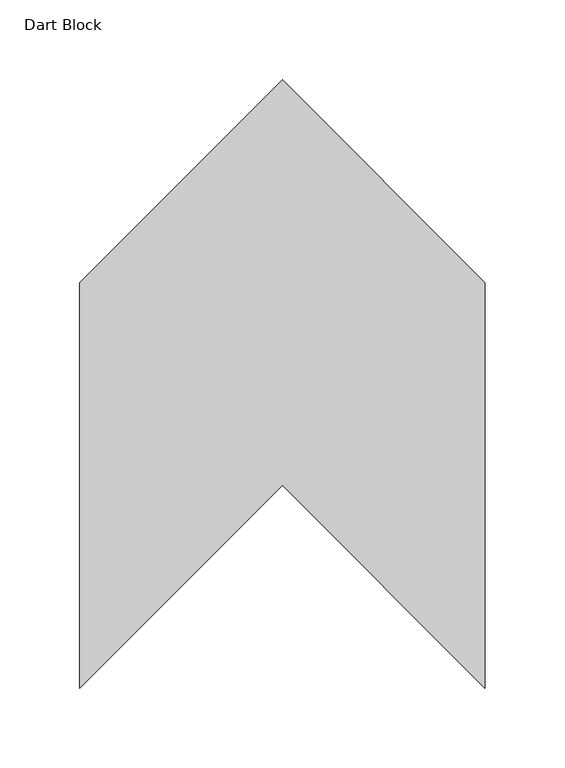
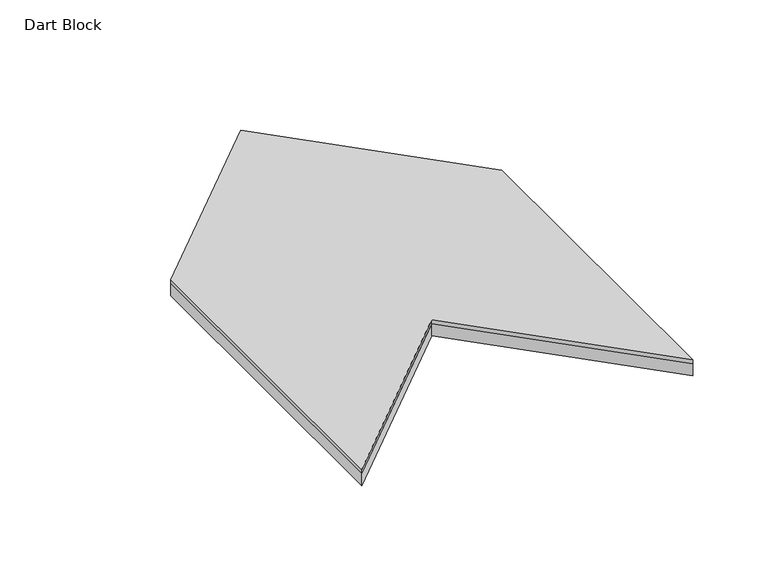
"""IFC4 building model written with IfcOpenShell, lengths in millimetres: proxy geometry, FilzFelt_Dart_Block : Dart Block."""

from ifc_helpers import new_model, si_unit, frame, origin, origin_with_axes, place, context, project, spatial, polyline, outline, extrude, source, transform, mapped, element, save


def dart_block_31c125ed(model_context):
    return source(origin(), model_context, "Body", "SweptSolid", [
        extrude(outline(polyline([(0.0, 190.5), (127.0, 63.5), (127.0, -190.5), (0.0, -63.5), (-127.0, -190.5), (-127.0, 63.5), (0.0, 190.5)])), frame((0.0, 0.0, 10.0210937), z_axis=(0.0, 0.0, 1.0), x_axis=(1.0, 0.0, 0.0)), (0.0, 0.0, 1.0), 2.9765625),
        extrude(outline(polyline([(127.0, -190.5), (0.0, -63.5), (-127.0, -190.5), (-127.0, 63.5), (0.0, 190.5), (127.0, 63.5), (127.0, -190.5)])), origin_with_axes(), (0.0, 0.0, 1.0), 10.0210938),
    ])


if __name__ == "__main__":
    model = new_model("IFC4")
    model_context = context("Model", 3, world=origin())
    ifc_project = project(units=[si_unit("LENGTHUNIT", "METRE", prefix="MILLI")], contexts=[model_context])
    site = spatial("IfcSite", under=ifc_project)
    building = spatial("IfcBuilding", under=site)
    placement = place(None, origin())
    dart_block_shape = dart_block_31c125ed(model_context)
    element("IfcBuildingElementProxy", 1, Name="FilzFelt_Dart_Block : Dart Block", ObjectType="FilzFelt_Dart_Block : Dart Block", at=placement, inside=building, context=model_context, shape_type="MappedRepresentation", body=[
        mapped(dart_block_shape, transform((0.0, 0.0, 0.0), x_axis=(1.0, 0.0, 0.0), y_axis=(0.0, 1.0, 0.0), z_axis=(0.0, 0.0, 1.0))),
    ])
    save(model, "model.ifc")
